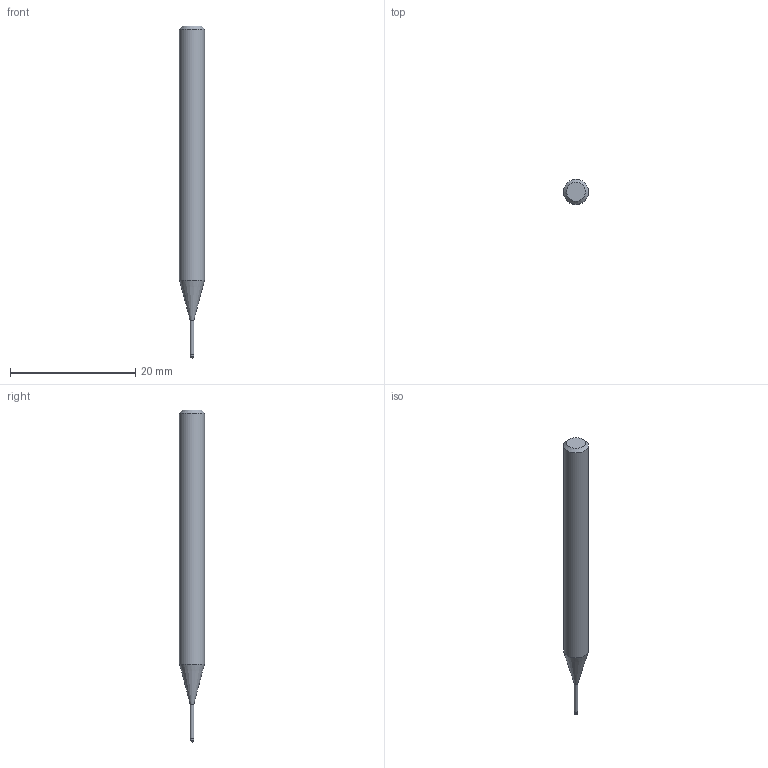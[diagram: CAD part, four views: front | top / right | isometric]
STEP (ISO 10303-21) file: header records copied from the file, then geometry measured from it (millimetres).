
FILE_DESCRIPTION((''),'2;1');
FILE_NAME('C:\Users\nsx150\AppData\Local\Temp\Mastercam 2021\LJSIDMOTM8\TEMP.step','2021-08-03T14:23:59',(''),(''),'STEP Write','Mastercam 2021 ... CNC Software, Inc.','');
FILE_SCHEMA(('AUTOMOTIVE_DESIGN'));
Length unit declared in the file: millimetre
Products named in the file (1): None
Bounding box: 4 x 4 x 53 mm (x, y, z)
Volume: 541.2 mm3; surface area: 577.3 mm2
Topology: 2 solids, 2 shells, 9 faces, 14 edges, 8 vertices
Faces by surface type: plane 3, cylinder 3, cone 2, sphere 1
Full cylindrical faces by diameter (mm): 0.56 x1, 0.6 x1, 4 x1
Entity records: 211 total; most frequent: DIRECTION 36, CARTESIAN_POINT 25, AXIS2_PLACEMENT_3D 18, ORIENTED_EDGE 14, EDGE_LOOP 14, STYLED_ITEM 12, ADVANCED_FACE 9, FACE_BOUND 8
